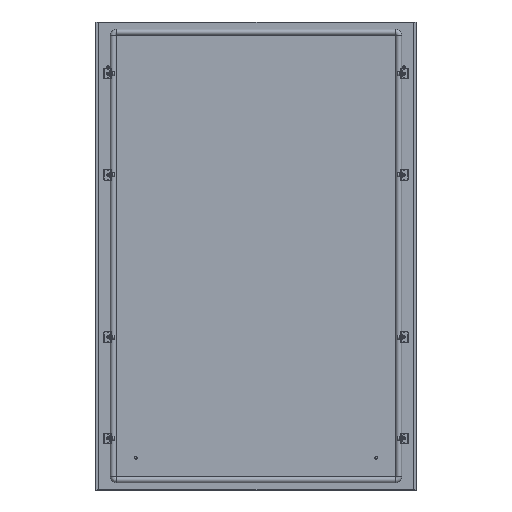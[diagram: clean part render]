
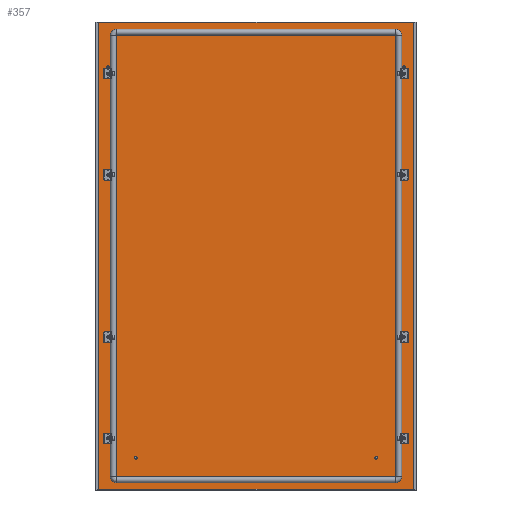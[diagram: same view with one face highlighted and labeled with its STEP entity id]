
A CAD part, top view. The second image highlights one B-rep face of the part: STEP entity #357.
In plain terms, the highlighted planar face has unit normal (0, 0, 1).
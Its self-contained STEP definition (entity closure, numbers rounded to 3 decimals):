
#357 = ADVANCED_FACE('',(#358,#456,#467,#478,#498,#518,#529,#540,#560),
  #580,.F.);
#358 = FACE_BOUND('',#359,.T.);
#359 = EDGE_LOOP('',(#360,#370,#378,#386,#394,#402,#410,#418,#426,#434,
    #442,#450));
#360 = ORIENTED_EDGE('',*,*,#361,.F.);
#361 = EDGE_CURVE('',#362,#364,#366,.T.);
#362 = VERTEX_POINT('',#363);
#363 = CARTESIAN_POINT('',(-395.5,577.5,0.));
#364 = VERTEX_POINT('',#365);
#365 = CARTESIAN_POINT('',(-395.3,577.5,0.));
#366 = LINE('',#367,#368);
#367 = CARTESIAN_POINT('',(0.,577.5,0.
    ));
#368 = VECTOR('',#369,1.);
#369 = DIRECTION('',(1.,0.,0.));
#370 = ORIENTED_EDGE('',*,*,#371,.T.);
#371 = EDGE_CURVE('',#362,#372,#374,.T.);
#372 = VERTEX_POINT('',#373);
#373 = CARTESIAN_POINT('',(-395.5,-577.5,0.));
#374 = LINE('',#375,#376);
#375 = CARTESIAN_POINT('',(-395.5,0.,0.
    ));
#376 = VECTOR('',#377,1.);
#377 = DIRECTION('',(0.,-1.,0.));
#378 = ORIENTED_EDGE('',*,*,#379,.T.);
#379 = EDGE_CURVE('',#372,#380,#382,.T.);
#380 = VERTEX_POINT('',#381);
#381 = CARTESIAN_POINT('',(-395.3,-577.5,0.));
#382 = LINE('',#383,#384);
#383 = CARTESIAN_POINT('',(0.,-577.5,
    0.));
#384 = VECTOR('',#385,1.);
#385 = DIRECTION('',(1.,-0.,-0.));
#386 = ORIENTED_EDGE('',*,*,#387,.F.);
#387 = EDGE_CURVE('',#388,#380,#390,.T.);
#388 = VERTEX_POINT('',#389);
#389 = CARTESIAN_POINT('',(-395.3,-576.,0.));
#390 = LINE('',#391,#392);
#391 = CARTESIAN_POINT('',(-395.3,0.,0.)
  );
#392 = VECTOR('',#393,1.);
#393 = DIRECTION('',(0.,-1.,0.));
#394 = ORIENTED_EDGE('',*,*,#395,.T.);
#395 = EDGE_CURVE('',#388,#396,#398,.T.);
#396 = VERTEX_POINT('',#397);
#397 = CARTESIAN_POINT('',(395.3,-576.,0.));
#398 = LINE('',#399,#400);
#399 = CARTESIAN_POINT('',(0.,-576.,0.
    ));
#400 = VECTOR('',#401,1.);
#401 = DIRECTION('',(1.,-0.,-0.));
#402 = ORIENTED_EDGE('',*,*,#403,.T.);
#403 = EDGE_CURVE('',#396,#404,#406,.T.);
#404 = VERTEX_POINT('',#405);
#405 = CARTESIAN_POINT('',(395.3,-577.5,0.));
#406 = LINE('',#407,#408);
#407 = CARTESIAN_POINT('',(395.3,-576.,0.));
#408 = VECTOR('',#409,1.);
#409 = DIRECTION('',(0.,-1.,0.));
#410 = ORIENTED_EDGE('',*,*,#411,.F.);
#411 = EDGE_CURVE('',#412,#404,#414,.T.);
#412 = VERTEX_POINT('',#413);
#413 = CARTESIAN_POINT('',(395.5,-577.5,0.));
#414 = LINE('',#415,#416);
#415 = CARTESIAN_POINT('',(0.,-577.5,
    0.));
#416 = VECTOR('',#417,1.);
#417 = DIRECTION('',(-1.,0.,0.));
#418 = ORIENTED_EDGE('',*,*,#419,.T.);
#419 = EDGE_CURVE('',#412,#420,#422,.T.);
#420 = VERTEX_POINT('',#421);
#421 = CARTESIAN_POINT('',(395.5,577.5,0.));
#422 = LINE('',#423,#424);
#423 = CARTESIAN_POINT('',(395.5,0.,0.));
#424 = VECTOR('',#425,1.);
#425 = DIRECTION('',(0.,1.,0.));
#426 = ORIENTED_EDGE('',*,*,#427,.T.);
#427 = EDGE_CURVE('',#420,#428,#430,.T.);
#428 = VERTEX_POINT('',#429);
#429 = CARTESIAN_POINT('',(395.3,577.5,0.));
#430 = LINE('',#431,#432);
#431 = CARTESIAN_POINT('',(0.,577.5,0.)
  );
#432 = VECTOR('',#433,1.);
#433 = DIRECTION('',(-1.,0.,0.));
#434 = ORIENTED_EDGE('',*,*,#435,.F.);
#435 = EDGE_CURVE('',#436,#428,#438,.T.);
#436 = VERTEX_POINT('',#437);
#437 = CARTESIAN_POINT('',(395.3,576.,0.));
#438 = LINE('',#439,#440);
#439 = CARTESIAN_POINT('',(395.3,0.,
    0.));
#440 = VECTOR('',#441,1.);
#441 = DIRECTION('',(0.,1.,0.));
#442 = ORIENTED_EDGE('',*,*,#443,.T.);
#443 = EDGE_CURVE('',#436,#444,#446,.T.);
#444 = VERTEX_POINT('',#445);
#445 = CARTESIAN_POINT('',(-395.3,576.,0.));
#446 = LINE('',#447,#448);
#447 = CARTESIAN_POINT('',(0.,576.,0.)
  );
#448 = VECTOR('',#449,1.);
#449 = DIRECTION('',(-1.,0.,0.));
#450 = ORIENTED_EDGE('',*,*,#451,.T.);
#451 = EDGE_CURVE('',#444,#364,#452,.T.);
#452 = LINE('',#453,#454);
#453 = CARTESIAN_POINT('',(-395.3,576.,0.));
#454 = VECTOR('',#455,1.);
#455 = DIRECTION('',(0.,1.,0.));
#456 = FACE_BOUND('',#457,.T.);
#457 = EDGE_LOOP('',(#458));
#458 = ORIENTED_EDGE('',*,*,#459,.T.);
#459 = EDGE_CURVE('',#460,#460,#462,.T.);
#460 = VERTEX_POINT('',#461);
#461 = CARTESIAN_POINT('',(-364.5,-195.25,0.));
#462 = CIRCLE('',#463,4.75);
#463 = AXIS2_PLACEMENT_3D('',#464,#465,#466);
#464 = CARTESIAN_POINT('',(-364.5,-200.,0.));
#465 = DIRECTION('',(0.,0.,-1.));
#466 = DIRECTION('',(0.,1.,0.));
#467 = FACE_BOUND('',#468,.T.);
#468 = EDGE_LOOP('',(#469));
#469 = ORIENTED_EDGE('',*,*,#470,.T.);
#470 = EDGE_CURVE('',#471,#471,#473,.T.);
#471 = VERTEX_POINT('',#472);
#472 = CARTESIAN_POINT('',(364.5,-204.75,0.));
#473 = CIRCLE('',#474,4.75);
#474 = AXIS2_PLACEMENT_3D('',#475,#476,#477);
#475 = CARTESIAN_POINT('',(364.5,-200.,0.));
#476 = DIRECTION('',(-0.,0.,-1.));
#477 = DIRECTION('',(0.,-1.,0.));
#478 = FACE_BOUND('',#479,.T.);
#479 = EDGE_LOOP('',(#480,#491));
#480 = ORIENTED_EDGE('',*,*,#481,.F.);
#481 = EDGE_CURVE('',#482,#484,#486,.T.);
#482 = VERTEX_POINT('',#483);
#483 = CARTESIAN_POINT('',(-364.5,454.75,0.));
#484 = VERTEX_POINT('',#485);
#485 = CARTESIAN_POINT('',(-364.5,445.25,0.));
#486 = CIRCLE('',#487,4.75);
#487 = AXIS2_PLACEMENT_3D('',#488,#489,#490);
#488 = CARTESIAN_POINT('',(-364.5,450.,0.));
#489 = DIRECTION('',(0.,0.,1.));
#490 = DIRECTION('',(0.,1.,0.));
#491 = ORIENTED_EDGE('',*,*,#492,.F.);
#492 = EDGE_CURVE('',#484,#482,#493,.T.);
#493 = CIRCLE('',#494,4.75);
#494 = AXIS2_PLACEMENT_3D('',#495,#496,#497);
#495 = CARTESIAN_POINT('',(-364.5,450.,0.));
#496 = DIRECTION('',(0.,0.,1.));
#497 = DIRECTION('',(0.,1.,0.));
#498 = FACE_BOUND('',#499,.T.);
#499 = EDGE_LOOP('',(#500,#511));
#500 = ORIENTED_EDGE('',*,*,#501,.F.);
#501 = EDGE_CURVE('',#502,#504,#506,.T.);
#502 = VERTEX_POINT('',#503);
#503 = CARTESIAN_POINT('',(364.5,445.25,0.));
#504 = VERTEX_POINT('',#505);
#505 = CARTESIAN_POINT('',(364.5,454.75,0.));
#506 = CIRCLE('',#507,4.75);
#507 = AXIS2_PLACEMENT_3D('',#508,#509,#510);
#508 = CARTESIAN_POINT('',(364.5,450.,0.));
#509 = DIRECTION('',(0.,0.,1.));
#510 = DIRECTION('',(0.,-1.,0.));
#511 = ORIENTED_EDGE('',*,*,#512,.F.);
#512 = EDGE_CURVE('',#504,#502,#513,.T.);
#513 = CIRCLE('',#514,4.75);
#514 = AXIS2_PLACEMENT_3D('',#515,#516,#517);
#515 = CARTESIAN_POINT('',(364.5,450.,0.));
#516 = DIRECTION('',(0.,0.,1.));
#517 = DIRECTION('',(0.,-1.,0.));
#518 = FACE_BOUND('',#519,.T.);
#519 = EDGE_LOOP('',(#520));
#520 = ORIENTED_EDGE('',*,*,#521,.T.);
#521 = EDGE_CURVE('',#522,#522,#524,.T.);
#522 = VERTEX_POINT('',#523);
#523 = CARTESIAN_POINT('',(-364.5,-445.25,0.));
#524 = CIRCLE('',#525,4.75);
#525 = AXIS2_PLACEMENT_3D('',#526,#527,#528);
#526 = CARTESIAN_POINT('',(-364.5,-450.,0.));
#527 = DIRECTION('',(0.,0.,-1.));
#528 = DIRECTION('',(0.,1.,0.));
#529 = FACE_BOUND('',#530,.T.);
#530 = EDGE_LOOP('',(#531));
#531 = ORIENTED_EDGE('',*,*,#532,.T.);
#532 = EDGE_CURVE('',#533,#533,#535,.T.);
#533 = VERTEX_POINT('',#534);
#534 = CARTESIAN_POINT('',(364.5,-454.75,0.));
#535 = CIRCLE('',#536,4.75);
#536 = AXIS2_PLACEMENT_3D('',#537,#538,#539);
#537 = CARTESIAN_POINT('',(364.5,-450.,0.));
#538 = DIRECTION('',(-0.,0.,-1.));
#539 = DIRECTION('',(0.,-1.,0.));
#540 = FACE_BOUND('',#541,.T.);
#541 = EDGE_LOOP('',(#542,#553));
#542 = ORIENTED_EDGE('',*,*,#543,.F.);
#543 = EDGE_CURVE('',#544,#546,#548,.T.);
#544 = VERTEX_POINT('',#545);
#545 = CARTESIAN_POINT('',(364.5,195.25,0.));
#546 = VERTEX_POINT('',#547);
#547 = CARTESIAN_POINT('',(364.5,204.75,0.));
#548 = CIRCLE('',#549,4.75);
#549 = AXIS2_PLACEMENT_3D('',#550,#551,#552);
#550 = CARTESIAN_POINT('',(364.5,200.,0.));
#551 = DIRECTION('',(0.,0.,1.));
#552 = DIRECTION('',(0.,-1.,0.));
#553 = ORIENTED_EDGE('',*,*,#554,.F.);
#554 = EDGE_CURVE('',#546,#544,#555,.T.);
#555 = CIRCLE('',#556,4.75);
#556 = AXIS2_PLACEMENT_3D('',#557,#558,#559);
#557 = CARTESIAN_POINT('',(364.5,200.,0.));
#558 = DIRECTION('',(0.,0.,1.));
#559 = DIRECTION('',(0.,-1.,0.));
#560 = FACE_BOUND('',#561,.T.);
#561 = EDGE_LOOP('',(#562,#573));
#562 = ORIENTED_EDGE('',*,*,#563,.F.);
#563 = EDGE_CURVE('',#564,#566,#568,.T.);
#564 = VERTEX_POINT('',#565);
#565 = CARTESIAN_POINT('',(-364.5,204.75,0.));
#566 = VERTEX_POINT('',#567);
#567 = CARTESIAN_POINT('',(-364.5,195.25,0.));
#568 = CIRCLE('',#569,4.75);
#569 = AXIS2_PLACEMENT_3D('',#570,#571,#572);
#570 = CARTESIAN_POINT('',(-364.5,200.,0.));
#571 = DIRECTION('',(0.,0.,1.));
#572 = DIRECTION('',(0.,1.,0.));
#573 = ORIENTED_EDGE('',*,*,#574,.F.);
#574 = EDGE_CURVE('',#566,#564,#575,.T.);
#575 = CIRCLE('',#576,4.75);
#576 = AXIS2_PLACEMENT_3D('',#577,#578,#579);
#577 = CARTESIAN_POINT('',(-364.5,200.,0.));
#578 = DIRECTION('',(0.,0.,1.));
#579 = DIRECTION('',(0.,1.,0.));
#580 = PLANE('',#581);
#581 = AXIS2_PLACEMENT_3D('',#582,#583,#584);
#582 = CARTESIAN_POINT('',(0.,0.,
    0.));
#583 = DIRECTION('',(0.,0.,-1.));
#584 = DIRECTION('',(-1.,0.,0.));
